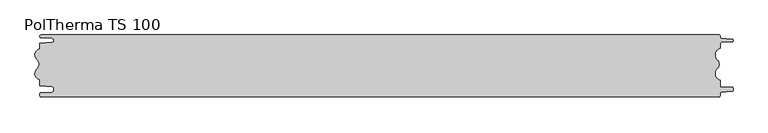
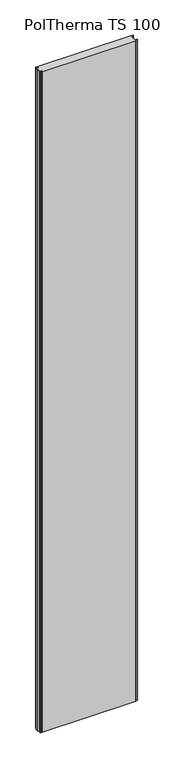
"""IFC4 building model written with IfcOpenShell, lengths in millimetres: plate geometry, Europanels_Poltherma TS_Vt : PolTherma TS 100."""

from ifc_helpers import new_model, si_unit, point, frame_2d, origin, origin_with_axes, place, context, project, spatial, polyline, circle_curve, trimmed, segment, composite_curve, outline, extrude, source, transform, mapped, element, save


def poltherma_ts_100_5a3106a8(model_context):
    return source(origin(), model_context, "Body", "SweptSolid", [
        extrude(outline(composite_curve([segment(trimmed(circle_curve(frame_2d((-546.6475513, 17.7)), 10.0), [point((-553.2619295, 10.2))], [point((-548.5011047, 27.5267156))], False, "CARTESIAN"), True, "CONTINUOUS"), segment(polyline([(-548.5011047, 27.5267156), (-548.5011047, 36.641555), (-528.9415802, 37.7691486)]), True, "CONTINUOUS"), segment(trimmed(circle_curve(frame_2d((-529.1306987, 41.0496456)), 3.2859437), [point((-528.9415802, 37.7691486))], [point((-528.9531856, 44.3307909))], True, "CARTESIAN"), True, "CONTINUOUS"), segment(polyline([(-528.9531856, 44.3307909), (-546.3724381, 45.2731892)]), True, "CONTINUOUS"), segment(trimmed(circle_curve(frame_2d((-546.244669, 47.6348678)), 2.3651322), [point((-546.3724381, 45.2731892))], [point((-546.244669, 50.0))], False, "CARTESIAN"), True, "CONTINUOUS"), segment(polyline([(-546.244669, 50.0), (546.5011047, 50.0)]), True, "CONTINUOUS"), segment(trimmed(circle_curve(frame_2d((546.5011047, 48.0)), 2.0), [point((546.5011047, 50.0))], [point((548.5011047, 48.0))], False, "CARTESIAN"), True, "CONTINUOUS"), segment(polyline([(548.5011047, 48.0), (548.5011047, 46.2557869)]), True, "CONTINUOUS"), segment(trimmed(circle_curve(frame_2d((550.5011047, 46.2557869)), 2.0), [point((548.5011047, 46.2557869))], [point((550.3765791, 44.2596673))], True, "CARTESIAN"), True, "CONTINUOUS"), segment(polyline([(550.3765791, 44.2596673), (567.4524091, 43.1944119)]), True, "CONTINUOUS"), segment(trimmed(circle_curve(frame_2d((567.3167265, 41.019447)), 2.179193), [point((567.4524091, 43.1944119))], [point((567.4102719, 38.8422628))], False, "CARTESIAN"), True, "CONTINUOUS"), segment(polyline([(567.4102719, 38.8422628), (550.4152514, 38.1120505)]), True, "CONTINUOUS"), segment(trimmed(circle_curve(frame_2d((550.5011047, 36.113894)), 2.0), [point((550.4152514, 38.1120505))], [point((548.5011047, 36.113894))], True, "CARTESIAN"), True, "CONTINUOUS"), segment(polyline([(548.5011047, 36.113894), (548.5011047, 28.3234285)]), True, "CONTINUOUS"), segment(trimmed(circle_curve(frame_2d((551.354658, 17.7)), 11.0), [point((548.5011047, 28.3234285))], [point((544.0788419, 9.45))], True, "CARTESIAN"), True, "CONTINUOUS"), segment(trimmed(circle_curve(frame_2d((538.1259015, 2.7)), 9.0), [point((544.0788419, 9.45))], [point((544.0788419, -4.05))], False, "CARTESIAN"), True, "CONTINUOUS"), segment(trimmed(circle_curve(frame_2d((551.354658, -12.3)), 11.0), [point((544.0788419, -4.05))], [point((548.5011047, -22.9234285))], True, "CARTESIAN"), True, "CONTINUOUS"), segment(polyline([(548.5011047, -22.9234285), (548.5011047, -33.6368016), (567.5840767, -34.4498501)]), True, "CONTINUOUS"), segment(trimmed(circle_curve(frame_2d((567.498942, -36.4480373)), 2.0), [point((567.5840767, -34.4498501))], [point((569.498942, -36.4480373))], False, "CARTESIAN"), True, "CONTINUOUS"), segment(polyline([(569.498942, -36.4480373), (569.498942, -39.1874198)]), True, "CONTINUOUS"), segment(trimmed(circle_curve(frame_2d((567.498942, -39.1874198)), 2.0), [point((569.498942, -39.1874198))], [point((567.6221823, -41.1836192))], False, "CARTESIAN"), True, "CONTINUOUS"), segment(polyline([(567.6221823, -41.1836192), (550.3757016, -42.2483736)]), True, "CONTINUOUS"), segment(trimmed(circle_curve(frame_2d((550.498942, -44.244573)), 2.0), [point((550.3757016, -42.2483736))], [point((548.498942, -44.244573))], True, "CARTESIAN"), True, "CONTINUOUS"), segment(polyline([(548.498942, -44.244573), (548.498942, -48.0)]), True, "CONTINUOUS"), segment(trimmed(circle_curve(frame_2d((546.498942, -48.0)), 2.0), [point((548.498942, -48.0))], [point((546.498942, -50.0))], False, "CARTESIAN"), True, "CONTINUOUS"), segment(polyline([(546.498942, -50.0), (-546.5011047, -50.0)]), True, "CONTINUOUS"), segment(trimmed(circle_curve(frame_2d((-546.5011047, -48.0)), 2.0), [point((-546.5011047, -50.0))], [point((-548.5011047, -48.0))], False, "CARTESIAN"), True, "CONTINUOUS"), segment(polyline([(-548.5011047, -48.0), (-548.5011047, -45.1821674)]), True, "CONTINUOUS"), segment(trimmed(circle_curve(frame_2d((-546.5032674, -45.2751521)), 2.0), [point((-548.5011047, -45.1821674))], [point((-546.6113113, -43.2780726))], False, "CARTESIAN"), True, "CONTINUOUS"), segment(polyline([(-546.6113113, -43.2780726), (-528.8380248, -42.3165207)]), True, "CONTINUOUS"), segment(trimmed(circle_curve(frame_2d((-529.0000906, -39.3209015)), 3.0), [point((-528.8380248, -42.3165207))], [point((-526.0000906, -39.3209015))], True, "CARTESIAN"), True, "CONTINUOUS"), segment(polyline([(-526.0000906, -39.3209015), (-526.0000906, -36.3793238)]), True, "CONTINUOUS"), segment(trimmed(circle_curve(frame_2d((-529.0000906, -36.3793238)), 3.0), [point((-526.0000906, -36.3793238))], [point((-528.8274293, -33.3842966))], True, "CARTESIAN"), True, "CONTINUOUS"), segment(polyline([(-528.8274293, -33.3842966), (-548.5011047, -32.2501222), (-548.5011047, -22.1267156)]), True, "CONTINUOUS"), segment(trimmed(circle_curve(frame_2d((-546.6475513, -12.3)), 10.0), [point((-548.5011047, -22.1267156))], [point((-553.2619295, -4.8))], False, "CARTESIAN"), True, "CONTINUOUS"), segment(trimmed(circle_curve(frame_2d((-559.8763078, 2.7)), 10.0), [point((-553.2619295, -4.8))], [point((-553.2619295, 10.2))], True, "CARTESIAN"), True, "CONTINUOUS")], self_intersect=False)), origin_with_axes(), (0.0, 0.0, 1.0), 8000.0),
    ])


if __name__ == "__main__":
    model = new_model("IFC4")
    model_context = context("Model", 3, world=origin())
    ifc_project = project(units=[si_unit("LENGTHUNIT", "METRE", prefix="MILLI")], contexts=[model_context])
    site = spatial("IfcSite", under=ifc_project)
    building = spatial("IfcBuilding", under=site)
    placement = place(None, origin())
    poltherma_ts_100_shape = poltherma_ts_100_5a3106a8(model_context)
    element("IfcPlate", 1, ObjectType="Europanels_Poltherma TS_Vt : PolTherma TS 100", at=placement, inside=building, context=model_context, shape_type="MappedRepresentation", body=[
        mapped(poltherma_ts_100_shape, transform((0.0, 0.0, 0.0), x_axis=(1.0, 0.0, 0.0), y_axis=(0.0, 1.0, 0.0), z_axis=(0.0, 0.0, 1.0))),
    ])
    save(model, "model.ifc")
